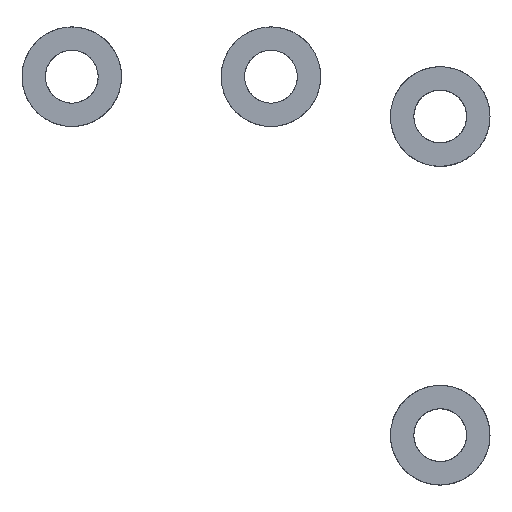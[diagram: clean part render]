
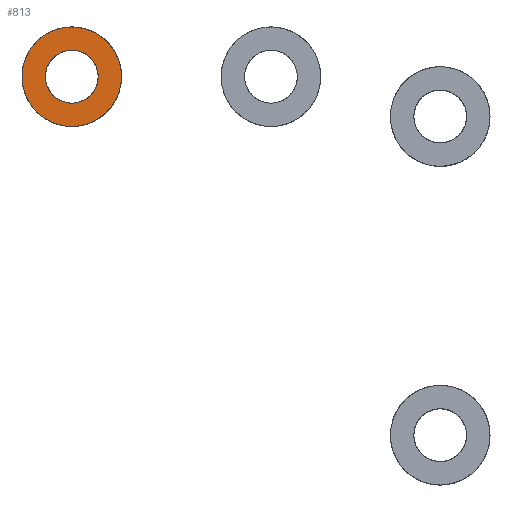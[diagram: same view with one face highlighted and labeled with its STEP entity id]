
A CAD part, top view. The second image highlights one B-rep face of the part: STEP entity #813.
In plain terms, the highlighted planar face has unit normal (0, 0, 1) as drawn and (1, 0, 0) by its records, which use the part's own axes.
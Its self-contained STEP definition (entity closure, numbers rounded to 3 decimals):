
#29=FACE_BOUND('',#946,.T.);
#51=PLANE('',#2877);
#813=ADVANCED_FACE('',(#879,#29),#51,.T.);
#879=FACE_OUTER_BOUND('',#945,.T.);
#945=EDGE_LOOP('',(#1039));
#946=EDGE_LOOP('',(#1040));
#1039=ORIENTED_EDGE('',*,*,#2095,.T.);
#1040=ORIENTED_EDGE('',*,*,#2096,.T.);
#1255=(
BOUNDED_CURVE()
B_SPLINE_CURVE(2,(#3027,#3028,#3029,#3030,#3031,#3032,#3033,#3034,#3035),
 .UNSPECIFIED.,.T.,.F.)
B_SPLINE_CURVE_WITH_KNOTS((3,2,2,2,3),(3.142,4.712,
6.283,7.854,9.425),.UNSPECIFIED.)
CURVE()
GEOMETRIC_REPRESENTATION_ITEM()
RATIONAL_B_SPLINE_CURVE((1.,0.707,1.,0.707,1.,0.707,
1.,0.707,1.))
REPRESENTATION_ITEM('')
);
#1256=(
BOUNDED_CURVE()
B_SPLINE_CURVE(2,(#3036,#3037,#3038,#3039,#3040,#3041,#3042,#3043,#3044),
 .UNSPECIFIED.,.T.,.F.)
B_SPLINE_CURVE_WITH_KNOTS((3,2,2,2,3),(3.142,4.712,
6.283,7.854,9.425),.UNSPECIFIED.)
CURVE()
GEOMETRIC_REPRESENTATION_ITEM()
RATIONAL_B_SPLINE_CURVE((1.,0.707,1.,0.707,1.,0.707,
1.,0.707,1.))
REPRESENTATION_ITEM('')
);
#1257=(
BOUNDED_CURVE()
B_SPLINE_CURVE(2,(#3045,#3046,#3047,#3048,#3049,#3050,#3051,#3052,#3053),
 .UNSPECIFIED.,.T.,.F.)
B_SPLINE_CURVE_WITH_KNOTS((3,2,2,2,3),(0.,1.571,3.142,
4.712,6.283),.UNSPECIFIED.)
CURVE()
GEOMETRIC_REPRESENTATION_ITEM()
RATIONAL_B_SPLINE_CURVE((1.,0.707,1.,0.707,1.,0.707,
1.,0.707,1.))
REPRESENTATION_ITEM('')
);
#1258=(
BOUNDED_CURVE()
B_SPLINE_CURVE(2,(#3054,#3055,#3056,#3057,#3058,#3059,#3060,#3061,#3062),
 .UNSPECIFIED.,.T.,.F.)
B_SPLINE_CURVE_WITH_KNOTS((3,2,2,2,3),(0.,1.571,3.142,
4.712,6.283),.UNSPECIFIED.)
CURVE()
GEOMETRIC_REPRESENTATION_ITEM()
RATIONAL_B_SPLINE_CURVE((1.,0.707,1.,0.707,1.,0.707,
1.,0.707,1.))
REPRESENTATION_ITEM('')
);
#1435=PCURVE('',#51,#1655);
#1436=PCURVE('',#51,#1656);
#1655=DEFINITIONAL_REPRESENTATION('',(#1256),#5733);
#1656=DEFINITIONAL_REPRESENTATION('',(#1258),#5733);
#1875=SURFACE_CURVE('',#1255,(#1435),.PCURVE_S1.);
#1876=SURFACE_CURVE('',#1257,(#1436),.PCURVE_S1.);
#2095=EDGE_CURVE('',#2579,#2579,#1875,.T.);
#2096=EDGE_CURVE('',#2580,#2580,#1876,.T.);
#2579=VERTEX_POINT('',#3025);
#2580=VERTEX_POINT('',#3026);
#2877=AXIS2_PLACEMENT_3D('',#3024,#2906,$);
#2906=DIRECTION('',(1.,0.,0.));
#3024=CARTESIAN_POINT('',(0.,5.,5.));
#3025=CARTESIAN_POINT('',(0.,-5.,0.));
#3026=CARTESIAN_POINT('',(0.,2.65,0.));
#3027=CARTESIAN_POINT('',(0.,-5.,0.));
#3028=CARTESIAN_POINT('',(0.,-5.,-5.));
#3029=CARTESIAN_POINT('',(0.,0.,-5.));
#3030=CARTESIAN_POINT('',(0.,5.,-5.));
#3031=CARTESIAN_POINT('',(0.,5.,0.));
#3032=CARTESIAN_POINT('',(0.,5.,5.));
#3033=CARTESIAN_POINT('',(0.,0.,5.));
#3034=CARTESIAN_POINT('',(0.,-5.,5.));
#3035=CARTESIAN_POINT('',(0.,-5.,0.));
#3036=CARTESIAN_POINT('',(1.,0.5));
#3037=CARTESIAN_POINT('',(1.,1.));
#3038=CARTESIAN_POINT('',(0.5,1.));
#3039=CARTESIAN_POINT('',(0.,1.));
#3040=CARTESIAN_POINT('',(0.,0.5));
#3041=CARTESIAN_POINT('',(0.,0.));
#3042=CARTESIAN_POINT('',(0.5,0.));
#3043=CARTESIAN_POINT('',(1.,0.));
#3044=CARTESIAN_POINT('',(1.,0.5));
#3045=CARTESIAN_POINT('',(0.,2.65,0.));
#3046=CARTESIAN_POINT('',(0.,2.65,-2.65));
#3047=CARTESIAN_POINT('',(0.,0.,-2.65));
#3048=CARTESIAN_POINT('',(0.,-2.65,-2.65));
#3049=CARTESIAN_POINT('',(0.,-2.65,0.));
#3050=CARTESIAN_POINT('',(0.,-2.65,2.65));
#3051=CARTESIAN_POINT('',(0.,0.,2.65));
#3052=CARTESIAN_POINT('',(0.,2.65,2.65));
#3053=CARTESIAN_POINT('',(0.,2.65,0.));
#3054=CARTESIAN_POINT('',(0.235,0.5));
#3055=CARTESIAN_POINT('',(0.235,0.765));
#3056=CARTESIAN_POINT('',(0.5,0.765));
#3057=CARTESIAN_POINT('',(0.765,0.765));
#3058=CARTESIAN_POINT('',(0.765,0.5));
#3059=CARTESIAN_POINT('',(0.765,0.235));
#3060=CARTESIAN_POINT('',(0.5,0.235));
#3061=CARTESIAN_POINT('',(0.235,0.235));
#3062=CARTESIAN_POINT('',(0.235,0.5));
#5733=(
GEOMETRIC_REPRESENTATION_CONTEXT(2)
PARAMETRIC_REPRESENTATION_CONTEXT()
REPRESENTATION_CONTEXT('pspace','')
);
